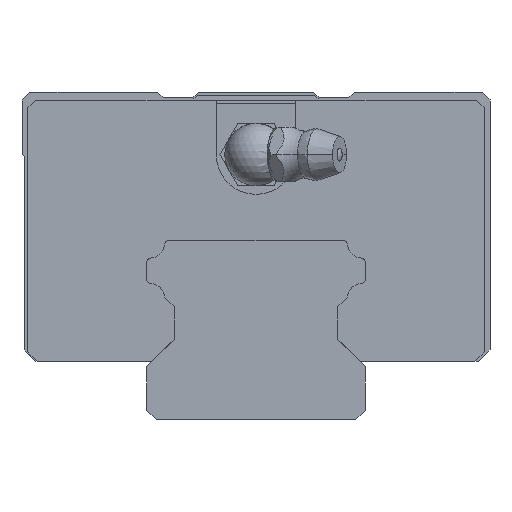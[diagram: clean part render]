
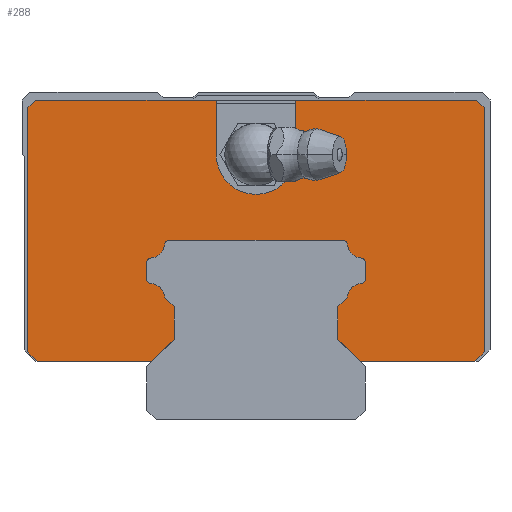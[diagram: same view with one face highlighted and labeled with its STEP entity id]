
A CAD part, front view. The second image highlights one B-rep face of the part: STEP entity #288.
In plain terms, the highlighted planar face has unit normal (0, -1, 0).
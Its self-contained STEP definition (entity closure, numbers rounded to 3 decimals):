
#288=ADVANCED_FACE('',(#650),#651,.F.);
#650=FACE_OUTER_BOUND('',#1144,.T.);
#651=PLANE('',#1145);
#1144=EDGE_LOOP('',(#2392,#2393,#2394,#2395,#2396,#2397,#2398,#2399,#2400,#2401,#2402,#2403,#2404,#2405,#2406,#2407,#2408,#2409,#2410,#2411,#2412,#2413,#2414,#2415,#2416,#2417,#2418,#2419,#2420,#2421,#2422,#2423,#2424));
#1145=AXIS2_PLACEMENT_3D('',#2425,#2426,#2427);
#2392=ORIENTED_EDGE('',*,*,#3631,.F.);
#2393=ORIENTED_EDGE('',*,*,#3500,.T.);
#2394=ORIENTED_EDGE('',*,*,#3614,.T.);
#2395=ORIENTED_EDGE('',*,*,#3738,.T.);
#2396=ORIENTED_EDGE('',*,*,#3504,.T.);
#2397=ORIENTED_EDGE('',*,*,#3739,.T.);
#2398=ORIENTED_EDGE('',*,*,#3572,.F.);
#2399=ORIENTED_EDGE('',*,*,#3548,.F.);
#2400=ORIENTED_EDGE('',*,*,#3462,.F.);
#2401=ORIENTED_EDGE('',*,*,#3721,.F.);
#2402=ORIENTED_EDGE('',*,*,#3740,.T.);
#2403=ORIENTED_EDGE('',*,*,#3682,.T.);
#2404=ORIENTED_EDGE('',*,*,#3714,.T.);
#2405=ORIENTED_EDGE('',*,*,#3741,.T.);
#2406=ORIENTED_EDGE('',*,*,#3584,.T.);
#2407=ORIENTED_EDGE('',*,*,#3742,.F.);
#2408=ORIENTED_EDGE('',*,*,#3547,.F.);
#2409=ORIENTED_EDGE('',*,*,#3518,.F.);
#2410=ORIENTED_EDGE('',*,*,#3558,.F.);
#2411=ORIENTED_EDGE('',*,*,#3743,.F.);
#2412=ORIENTED_EDGE('',*,*,#3694,.F.);
#2413=ORIENTED_EDGE('',*,*,#3706,.F.);
#2414=ORIENTED_EDGE('',*,*,#3717,.F.);
#2415=ORIENTED_EDGE('',*,*,#3726,.F.);
#2416=ORIENTED_EDGE('',*,*,#3565,.F.);
#2417=ORIENTED_EDGE('',*,*,#3683,.F.);
#2418=ORIENTED_EDGE('',*,*,#3623,.F.);
#2419=ORIENTED_EDGE('',*,*,#3691,.F.);
#2420=ORIENTED_EDGE('',*,*,#3538,.F.);
#2421=ORIENTED_EDGE('',*,*,#3690,.F.);
#2422=ORIENTED_EDGE('',*,*,#3744,.F.);
#2423=ORIENTED_EDGE('',*,*,#3745,.F.);
#2424=ORIENTED_EDGE('',*,*,#3746,.F.);
#2425=CARTESIAN_POINT('',(44.9,-26.3,24.35));
#2426=DIRECTION('',(0.0,1.0,0.0));
#2427=DIRECTION('',(1.0,0.0,0.0));
#3462=EDGE_CURVE('',#4156,#4152,#4158,.T.);
#3500=EDGE_CURVE('',#4206,#4219,#4221,.T.);
#3504=EDGE_CURVE('',#4222,#4227,#4229,.T.);
#3518=EDGE_CURVE('',#4253,#4249,#4255,.T.);
#3538=EDGE_CURVE('',#4289,#4285,#4291,.T.);
#3547=EDGE_CURVE('',#4249,#4301,#4304,.T.);
#3548=EDGE_CURVE('',#4152,#4305,#4306,.T.);
#3558=EDGE_CURVE('',#4322,#4253,#4324,.T.);
#3565=EDGE_CURVE('',#4333,#4329,#4335,.T.);
#3572=EDGE_CURVE('',#4305,#4338,#4346,.T.);
#3584=EDGE_CURVE('',#4355,#4368,#4370,.T.);
#3614=EDGE_CURVE('',#4219,#4411,#4413,.T.);
#3623=EDGE_CURVE('',#4429,#4415,#4431,.T.);
#3631=EDGE_CURVE('',#4206,#4442,#4445,.T.);
#3682=EDGE_CURVE('',#4521,#4526,#4528,.T.);
#3683=EDGE_CURVE('',#4415,#4333,#4529,.T.);
#3690=EDGE_CURVE('',#4540,#4289,#4542,.T.);
#3691=EDGE_CURVE('',#4285,#4429,#4543,.T.);
#3694=EDGE_CURVE('',#4546,#4544,#4548,.T.);
#3706=EDGE_CURVE('',#4565,#4546,#4567,.T.);
#3714=EDGE_CURVE('',#4526,#4576,#4578,.T.);
#3717=EDGE_CURVE('',#4580,#4565,#4582,.T.);
#3721=EDGE_CURVE('',#4587,#4156,#4589,.T.);
#3726=EDGE_CURVE('',#4329,#4580,#4596,.T.);
#3738=EDGE_CURVE('',#4411,#4222,#4610,.T.);
#3739=EDGE_CURVE('',#4227,#4338,#4611,.T.);
#3740=EDGE_CURVE('',#4587,#4521,#4612,.T.);
#3741=EDGE_CURVE('',#4576,#4355,#4613,.T.);
#3742=EDGE_CURVE('',#4301,#4368,#4614,.T.);
#3743=EDGE_CURVE('',#4544,#4322,#4615,.T.);
#3744=EDGE_CURVE('',#4616,#4540,#4617,.T.);
#3745=EDGE_CURVE('',#4618,#4616,#4619,.T.);
#3746=EDGE_CURVE('',#4442,#4618,#4620,.T.);
#4152=VERTEX_POINT('',#5216);
#4156=VERTEX_POINT('',#5221);
#4158=CIRCLE('',#5224,5.1);
#4206=VERTEX_POINT('',#5292);
#4219=VERTEX_POINT('',#5311);
#4221=LINE('',#5314,#5315);
#4222=VERTEX_POINT('',#5316);
#4227=VERTEX_POINT('',#5323);
#4229=LINE('',#5326,#5327);
#4249=VERTEX_POINT('',#5355);
#4253=VERTEX_POINT('',#5361);
#4255=LINE('',#5364,#5365);
#4285=VERTEX_POINT('',#5407);
#4289=VERTEX_POINT('',#5413);
#4291=LINE('',#5416,#5417);
#4301=VERTEX_POINT('',#5430);
#4304=LINE('',#5435,#5436);
#4305=VERTEX_POINT('',#5437);
#4306=CIRCLE('',#5438,5.1);
#4322=VERTEX_POINT('',#5470);
#4324=CIRCLE('',#5475,2.0);
#4329=VERTEX_POINT('',#5480);
#4333=VERTEX_POINT('',#5486);
#4335=LINE('',#5489,#5490);
#4338=VERTEX_POINT('',#5495);
#4346=LINE('',#5507,#5508);
#4355=VERTEX_POINT('',#5521);
#4368=VERTEX_POINT('',#5540);
#4370=LINE('',#5543,#5544);
#4411=VERTEX_POINT('',#5604);
#4413=LINE('',#5607,#5608);
#4415=VERTEX_POINT('',#5610);
#4429=VERTEX_POINT('',#5640);
#4431=CIRCLE('',#5645,2.0);
#4442=VERTEX_POINT('',#5661);
#4445=LINE('',#5666,#5667);
#4521=VERTEX_POINT('',#5774);
#4526=VERTEX_POINT('',#5781);
#4528=LINE('',#5784,#5785);
#4529=CIRCLE('',#5786,0.5);
#4540=VERTEX_POINT('',#5812);
#4542=CIRCLE('',#5817,0.5);
#4543=CIRCLE('',#5818,0.5);
#4544=VERTEX_POINT('',#5819);
#4546=VERTEX_POINT('',#5822);
#4548=LINE('',#5825,#5826);
#4565=VERTEX_POINT('',#5858);
#4567=CIRCLE('',#5863,0.5);
#4576=VERTEX_POINT('',#5877);
#4578=LINE('',#5880,#5881);
#4580=VERTEX_POINT('',#5883);
#4582=CIRCLE('',#5886,2.0);
#4587=VERTEX_POINT('',#5893);
#4589=LINE('',#5896,#5897);
#4596=CIRCLE('',#5907,0.5);
#4610=LINE('',#5932,#5933);
#4611=LINE('',#5934,#5935);
#4612=LINE('',#5936,#5937);
#4613=LINE('',#5938,#5939);
#4614=LINE('',#5940,#5941);
#4615=CIRCLE('',#5942,0.5);
#4616=VERTEX_POINT('',#5943);
#4617=CIRCLE('',#5944,2.0);
#4618=VERTEX_POINT('',#5945);
#4619=LINE('',#5946,#5947);
#4620=LINE('',#5948,#5949);
#5216=CARTESIAN_POINT('',(0.,-26.3,28.9));
#5221=CARTESIAN_POINT('',(-5.1,-26.3,34.0));
#5224=AXIS2_PLACEMENT_3D('',#6801,#6802,#6803);
#5292=CARTESIAN_POINT('',(13.3,-26.3,7.5));
#5311=CARTESIAN_POINT('',(28.05,-26.3,7.5));
#5314=CARTESIAN_POINT('',(-28.05,-26.3,7.5));
#5315=VECTOR('',#6861,1000.0);
#5316=CARTESIAN_POINT('',(29.25,-26.3,40.0));
#5323=CARTESIAN_POINT('',(28.25,-26.3,41.0));
#5326=CARTESIAN_POINT('',(29.25,-26.3,40.0));
#5327=VECTOR('',#6865,1000.0);
#5355=CARTESIAN_POINT('',(-10.5,-26.3,14.502));
#5361=CARTESIAN_POINT('',(-11.701,-26.3,15.703));
#5364=CARTESIAN_POINT('',(12.276,-26.3,-8.274));
#5365=VECTOR('',#6883,1000.0);
#5407=CARTESIAN_POINT('',(14.,-26.3,20.226));
#5413=CARTESIAN_POINT('',(14.,-26.3,17.995));
#5416=CARTESIAN_POINT('',(14.,-26.3,24.35));
#5417=VECTOR('',#6911,1000.0);
#5430=CARTESIAN_POINT('',(-10.5,-26.3,10.3));
#5435=CARTESIAN_POINT('',(-10.5,-26.3,24.35));
#5436=VECTOR('',#6926,1000.0);
#5437=CARTESIAN_POINT('',(5.1,-26.3,34.0));
#5438=AXIS2_PLACEMENT_3D('',#6927,#6928,#6929);
#5470=CARTESIAN_POINT('',(-13.536,-26.3,17.496));
#5475=AXIS2_PLACEMENT_3D('',#6937,#6938,#6939);
#5480=CARTESIAN_POINT('',(-11.201,-26.3,23.0));
#5486=CARTESIAN_POINT('',(11.201,-26.3,23.0));
#5489=CARTESIAN_POINT('',(44.9,-26.3,23.0));
#5490=VECTOR('',#6952,1000.0);
#5495=CARTESIAN_POINT('',(5.1,-26.3,41.0));
#5507=CARTESIAN_POINT('',(5.1,-26.3,34.0));
#5508=VECTOR('',#6959,1000.0);
#5521=CARTESIAN_POINT('',(-28.05,-26.3,7.5));
#5540=CARTESIAN_POINT('',(-13.3,-26.3,7.5));
#5543=CARTESIAN_POINT('',(-28.05,-26.3,7.5));
#5544=VECTOR('',#6971,1000.0);
#5604=CARTESIAN_POINT('',(29.25,-26.3,8.7));
#5607=CARTESIAN_POINT('',(28.05,-26.3,7.5));
#5608=VECTOR('',#7019,1000.0);
#5610=CARTESIAN_POINT('',(11.699,-26.3,22.544));
#5640=CARTESIAN_POINT('',(13.536,-26.3,20.725));
#5645=AXIS2_PLACEMENT_3D('',#7024,#7025,#7026);
#5661=CARTESIAN_POINT('',(10.5,-26.3,10.3));
#5666=CARTESIAN_POINT('',(20.675,-26.3,0.125));
#5667=VECTOR('',#7034,1000.0);
#5774=CARTESIAN_POINT('',(-28.25,-26.3,41.0));
#5781=CARTESIAN_POINT('',(-29.25,-26.3,40.0));
#5784=CARTESIAN_POINT('',(-28.25,-26.3,41.0));
#5785=VECTOR('',#7117,1000.0);
#5786=AXIS2_PLACEMENT_3D('',#7118,#7119,#7120);
#5812=CARTESIAN_POINT('',(13.536,-26.3,17.496));
#5817=AXIS2_PLACEMENT_3D('',#7121,#7122,#7123);
#5818=AXIS2_PLACEMENT_3D('',#7124,#7125,#7126);
#5819=CARTESIAN_POINT('',(-14.,-26.3,17.995));
#5822=CARTESIAN_POINT('',(-14.,-26.3,20.226));
#5825=CARTESIAN_POINT('',(-14.,-26.3,24.35));
#5826=VECTOR('',#7129,1000.0);
#5858=CARTESIAN_POINT('',(-13.536,-26.3,20.725));
#5863=AXIS2_PLACEMENT_3D('',#7145,#7146,#7147);
#5877=CARTESIAN_POINT('',(-29.25,-26.3,8.7));
#5880=CARTESIAN_POINT('',(-29.25,-26.3,40.0));
#5881=VECTOR('',#7157,1000.0);
#5883=CARTESIAN_POINT('',(-11.699,-26.3,22.544));
#5886=AXIS2_PLACEMENT_3D('',#7162,#7163,#7164);
#5893=CARTESIAN_POINT('',(-5.1,-26.3,41.0));
#5896=CARTESIAN_POINT('',(-5.1,-26.3,41.0));
#5897=VECTOR('',#7168,1000.0);
#5907=AXIS2_PLACEMENT_3D('',#7175,#7176,#7177);
#5932=CARTESIAN_POINT('',(29.25,-26.3,8.7));
#5933=VECTOR('',#7189,1000.0);
#5934=CARTESIAN_POINT('',(28.25,-26.3,41.0));
#5935=VECTOR('',#7190,1000.0);
#5936=CARTESIAN_POINT('',(28.25,-26.3,41.0));
#5937=VECTOR('',#7191,1000.0);
#5938=CARTESIAN_POINT('',(-29.25,-26.3,8.7));
#5939=VECTOR('',#7192,1000.0);
#5940=CARTESIAN_POINT('',(24.225,-26.3,45.025));
#5941=VECTOR('',#7193,1000.0);
#5942=AXIS2_PLACEMENT_3D('',#7194,#7195,#7196);
#5943=CARTESIAN_POINT('',(11.701,-26.3,15.703));
#5944=AXIS2_PLACEMENT_3D('',#7197,#7198,#7199);
#5945=CARTESIAN_POINT('',(10.5,-26.3,14.502));
#5946=CARTESIAN_POINT('',(32.624,-26.3,36.626));
#5947=VECTOR('',#7200,1000.0);
#5948=CARTESIAN_POINT('',(10.5,-26.3,24.35));
#5949=VECTOR('',#7201,1000.0);
#6801=CARTESIAN_POINT('',(0.0,-26.3,34.0));
#6802=DIRECTION('',(0.0,-1.0,0.0));
#6803=DIRECTION('',(-1.0,0.0,0.0));
#6861=DIRECTION('',(1.0,0.0,0.0));
#6865=DIRECTION('',(-0.707,0.0,0.707));
#6883=DIRECTION('',(0.707,0.0,-0.707));
#6911=DIRECTION('',(0.0,0.0,1.0));
#6926=DIRECTION('',(0.0,0.0,-1.0));
#6927=CARTESIAN_POINT('',(0.0,-26.3,34.0));
#6928=DIRECTION('',(0.0,-1.0,0.0));
#6929=DIRECTION('',(-1.0,0.0,0.0));
#6937=CARTESIAN_POINT('',(-13.691,-26.3,15.502));
#6938=DIRECTION('',(0.0,1.0,0.0));
#6939=DIRECTION('',(0.0,0.0,1.0));
#6952=DIRECTION('',(-1.0,0.0,0.));
#6959=DIRECTION('',(0.0,0.0,1.0));
#6971=DIRECTION('',(1.0,0.0,0.0));
#7019=DIRECTION('',(0.707,0.0,0.707));
#7024=CARTESIAN_POINT('',(13.691,-26.3,22.719));
#7025=DIRECTION('',(0.0,1.0,0.0));
#7026=DIRECTION('',(0.0,0.0,1.0));
#7034=DIRECTION('',(-0.707,0.0,0.707));
#7117=DIRECTION('',(-0.707,0.0,-0.707));
#7118=CARTESIAN_POINT('',(11.201,-26.3,22.5));
#7119=DIRECTION('',(0.0,-1.0,0.0));
#7120=DIRECTION('',(0.0,0.0,1.0));
#7121=CARTESIAN_POINT('',(13.5,-26.3,17.995));
#7122=DIRECTION('',(0.0,-1.0,0.0));
#7123=DIRECTION('',(0.0,0.0,1.0));
#7124=CARTESIAN_POINT('',(13.5,-26.3,20.226));
#7125=DIRECTION('',(0.0,-1.0,0.0));
#7126=DIRECTION('',(0.0,0.0,1.0));
#7129=DIRECTION('',(0.0,0.0,-1.0));
#7145=CARTESIAN_POINT('',(-13.5,-26.3,20.226));
#7146=DIRECTION('',(0.0,-1.0,0.0));
#7147=DIRECTION('',(0.0,0.0,1.0));
#7157=DIRECTION('',(0.0,0.0,-1.0));
#7162=CARTESIAN_POINT('',(-13.691,-26.3,22.719));
#7163=DIRECTION('',(0.0,1.0,0.0));
#7164=DIRECTION('',(0.0,0.0,1.0));
#7168=DIRECTION('',(0.0,0.0,-1.0));
#7175=CARTESIAN_POINT('',(-11.201,-26.3,22.5));
#7176=DIRECTION('',(0.0,-1.0,0.0));
#7177=DIRECTION('',(0.0,0.0,1.0));
#7189=DIRECTION('',(0.0,0.0,1.0));
#7190=DIRECTION('',(-1.0,0.0,0.0));
#7191=DIRECTION('',(-1.0,0.0,0.0));
#7192=DIRECTION('',(0.707,0.0,-0.707));
#7193=DIRECTION('',(-0.707,0.0,-0.707));
#7194=CARTESIAN_POINT('',(-13.5,-26.3,17.995));
#7195=DIRECTION('',(0.0,-1.0,0.0));
#7196=DIRECTION('',(0.0,0.0,1.0));
#7197=CARTESIAN_POINT('',(13.691,-26.3,15.502));
#7198=DIRECTION('',(0.0,1.0,0.0));
#7199=DIRECTION('',(0.0,0.0,1.0));
#7200=DIRECTION('',(0.707,0.0,0.707));
#7201=DIRECTION('',(0.0,0.0,1.0));
